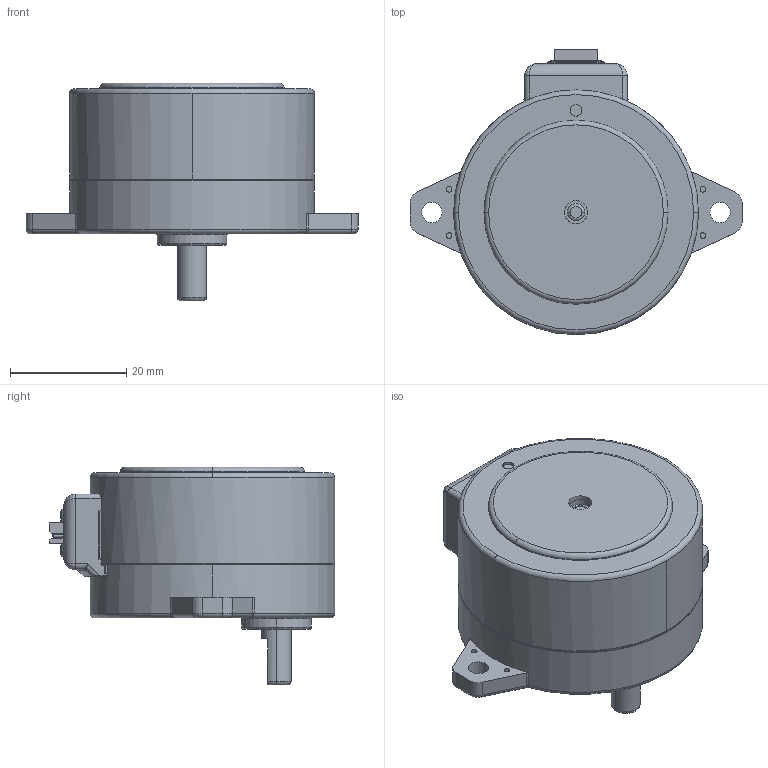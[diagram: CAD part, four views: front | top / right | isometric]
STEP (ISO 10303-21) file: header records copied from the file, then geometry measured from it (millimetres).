
FILE_DESCRIPTION (( 'STEP AP203' ), '1' );
FILE_NAME ('KFG42B_3D.STEP', '2026-01-23T05:57:36', ( '' ), ( '' ), 'SwSTEP 2.0', 'SolidWorks 2022', '' );
FILE_SCHEMA (( 'CONFIG_CONTROL_DESIGN' ));
Length unit declared in the file: millimetre
Products named in the file (1): KFG42B_3D
Bounding box: 57 x 49 x 37.35 mm (x, y, z)
Volume: 36853.7 mm3; surface area: 7639.5 mm2
Topology: 1 solids, 11 shells, 518 faces, 1284 edges, 814 vertices
Faces by surface type: plane 255, cylinder 159, torus 53, cone 37, bspline 14
Entity records: 15930 total; most frequent: CARTESIAN_POINT 3633, DIRECTION 2561, ORIENTED_EDGE 2556, EDGE_CURVE 1278, AXIS2_PLACEMENT_3D 958, VERTEX_POINT 814, LINE 645, VECTOR 645
